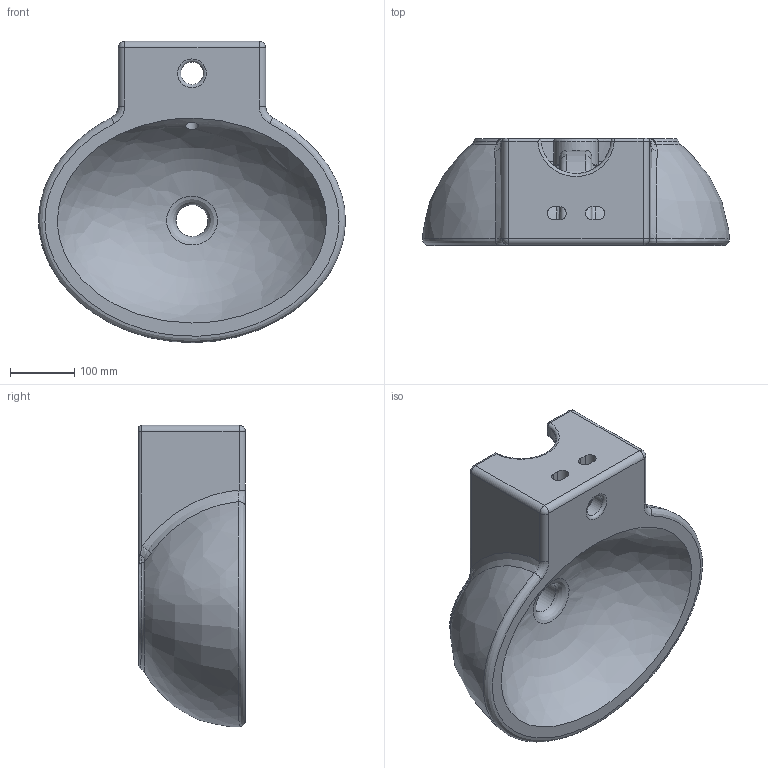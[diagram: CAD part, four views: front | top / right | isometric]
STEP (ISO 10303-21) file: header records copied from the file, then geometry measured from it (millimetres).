
FILE_DESCRIPTION( ( 'Unknown' ), '1' );
FILE_NAME( 'C:/Documents and Settings/s.pallini/Desktop/Scarabeo 17-6/Planet ovale piccolo sospeso.stp', 'Unknown', ( 'Unknown' ), ( 'Unknown' ), 'PSStep 11.0', 'Unknown', ' ' );
FILE_SCHEMA( ( 'AUTOMOTIVE_DESIGN { 1 0 10303 214 1 1 1 1 }' ) );
Length unit declared in the file: millimetre
Products named in the file (1): 1
Bounding box: 479.08 x 167 x 470.65 mm (x, y, z)
Volume: 12095275.1 mm3; surface area: 657610.5 mm2
Topology: 1 solids, 1 shells, 97 faces, 247 edges, 145 vertices
Faces by surface type: cylinder 32, plane 23, bspline 22, torus 13, sphere 6, extrusion 1
Full cylindrical faces by diameter (mm): 20 x1, 35 x1, 50 x1, 70 x1
Entity records: 51127 total; most frequent: CARTESIAN_POINT 48272, ORIENTED_EDGE 454, DIRECTION 380, EDGE_CURVE 227, AXIS2_PLACEMENT_3D 154, VERTEX_POINT 141, EDGE_LOOP 114, FACE_OUTER_BOUND 105
